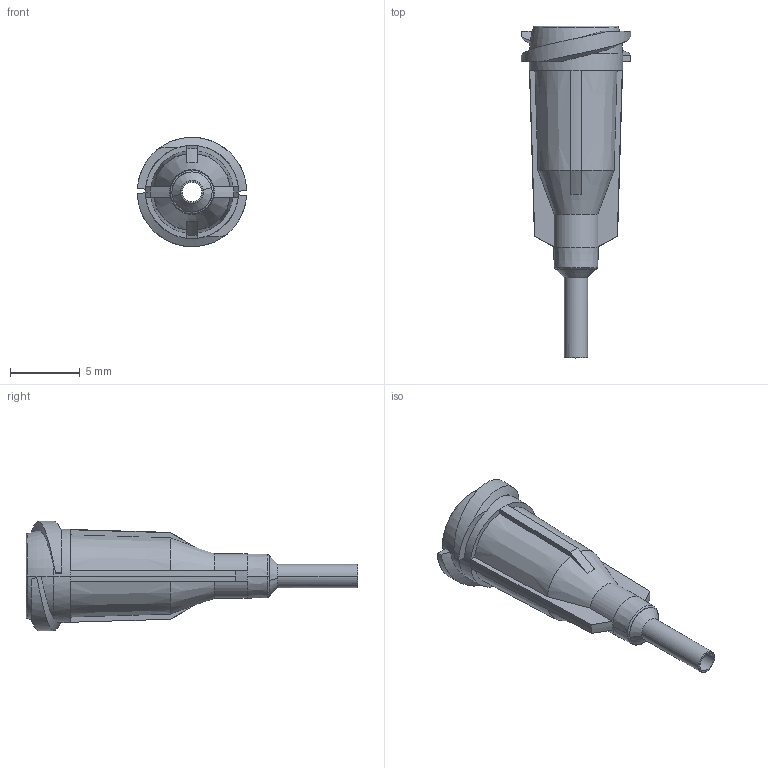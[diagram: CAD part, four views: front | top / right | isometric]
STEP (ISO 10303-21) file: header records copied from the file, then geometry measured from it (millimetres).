
FILE_DESCRIPTION (( 'STEP AP214' ), '1' );
FILE_NAME ('NORDSONEFD-7018055 TIP 15GA GP 054 X 25 AM.STEP', '2019-02-18T02:10:01', ( '' ), ( '' ), 'SwSTEP 2.0', 'SolidWorks 2019', '' );
FILE_SCHEMA (( 'AUTOMOTIVE_DESIGN' ));
Length unit declared in the file: inch
Products named in the file (1): NORDSONEFD-7018055 TIP 15GA GP 054 X 25 AM
Bounding box: 7.82 x 23.72 x 7.82 mm (x, y, z)
Volume: 257.8 mm3; surface area: 624.6 mm2
Topology: 1 solids, 1 shells, 98 faces, 232 edges, 140 vertices
Faces by surface type: plane 26, torus 22, cone 22, cylinder 16, bspline 12
Entity records: 3360 total; most frequent: CARTESIAN_POINT 1005, DIRECTION 468, ORIENTED_EDGE 464, EDGE_CURVE 232, AXIS2_PLACEMENT_3D 205, VERTEX_POINT 140, CIRCLE 118, EDGE_LOOP 104
